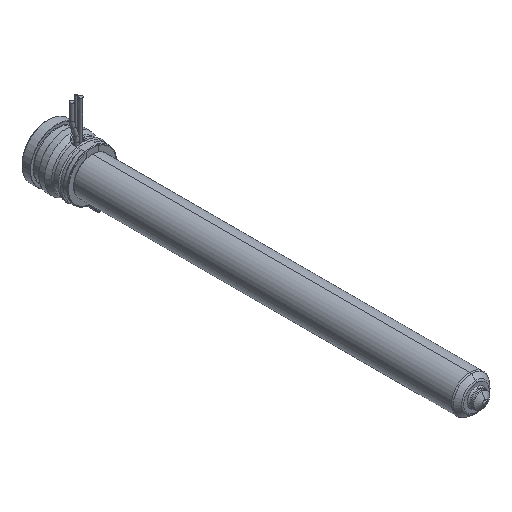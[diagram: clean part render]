
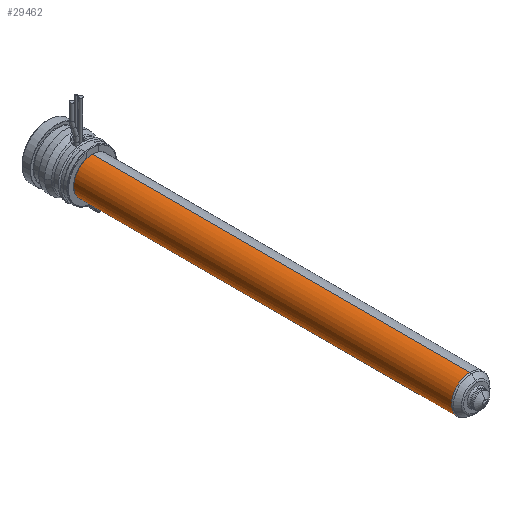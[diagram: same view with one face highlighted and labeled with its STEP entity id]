
A CAD part, isometric view. The second image highlights one B-rep face of the part: STEP entity #29462.
In plain terms, the highlighted cylindrical face has radius 9 mm (diameter 18 mm), a partial arc.
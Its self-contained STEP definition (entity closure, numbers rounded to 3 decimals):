
#28868=CARTESIAN_POINT('',(0.,-205.836,0.));
#28869=DIRECTION('',(0.,-1.,0.));
#28870=DIRECTION('',(0.,0.,1.));
#28871=AXIS2_PLACEMENT_3D('',#28868,#28869,#28870);
#28873=CARTESIAN_POINT('',(0.,-22.,0.));
#28874=DIRECTION('',(0.,1.,0.));
#28875=DIRECTION('',(0.,0.,-1.));
#28876=AXIS2_PLACEMENT_3D('',#28873,#28874,#28875);
#28878=DIRECTION('',(0.,1.,0.));
#28879=VECTOR('',#28878,183.836);
#28880=CARTESIAN_POINT('',(0.,-205.836,9.));
#28881=LINE('',#28880,#28879);
#28887=DIRECTION('',(0.,1.,0.));
#28888=VECTOR('',#28887,183.836);
#28889=CARTESIAN_POINT('',(0.,-205.836,-9.));
#28890=LINE('',#28889,#28888);
#29005=CARTESIAN_POINT('',(0.,-205.836,9.));
#29006=CARTESIAN_POINT('',(0.,-22.,9.));
#29007=VERTEX_POINT('',#29005);
#29008=VERTEX_POINT('',#29006);
#29009=CARTESIAN_POINT('',(0.,-205.836,-9.));
#29010=CARTESIAN_POINT('',(0.,-22.,-9.));
#29011=VERTEX_POINT('',#29009);
#29012=VERTEX_POINT('',#29010);
#29448=CARTESIAN_POINT('',(0.,-8.2,0.));
#29449=DIRECTION('',(0.,-1.,0.));
#29450=DIRECTION('',(0.,0.,1.));
#29451=AXIS2_PLACEMENT_3D('',#29448,#29449,#29450);
#29452=CYLINDRICAL_SURFACE('',#29451,9.);
#29454=ORIENTED_EDGE('',*,*,#29453,.F.);
#29455=ORIENTED_EDGE('',*,*,#29436,.T.);
#29457=ORIENTED_EDGE('',*,*,#29456,.T.);
#29459=ORIENTED_EDGE('',*,*,#29458,.T.);
#29460=EDGE_LOOP('',(#29454,#29455,#29457,#29459));
#29461=FACE_OUTER_BOUND('',#29460,.F.);
#29462=ADVANCED_FACE('',(#29461),#29452,.T.);
#28872=CIRCLE('',#28871,9.);
#28877=CIRCLE('',#28876,9.);
#29436=EDGE_CURVE('',#29007,#29011,#28872,.T.);
#29453=EDGE_CURVE('',#29007,#29008,#28881,.T.);
#29456=EDGE_CURVE('',#29011,#29012,#28890,.T.);
#29458=EDGE_CURVE('',#29012,#29008,#28877,.T.);
